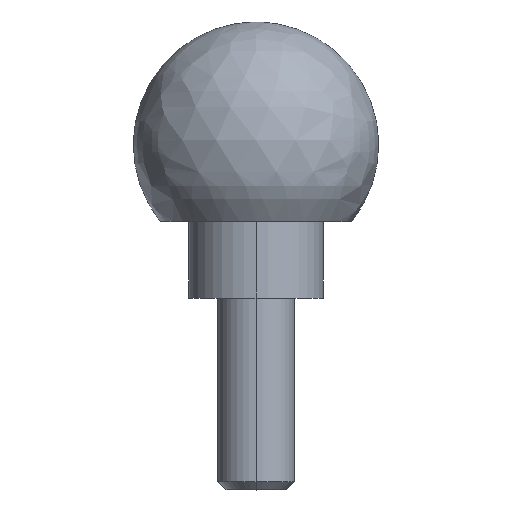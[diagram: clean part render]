
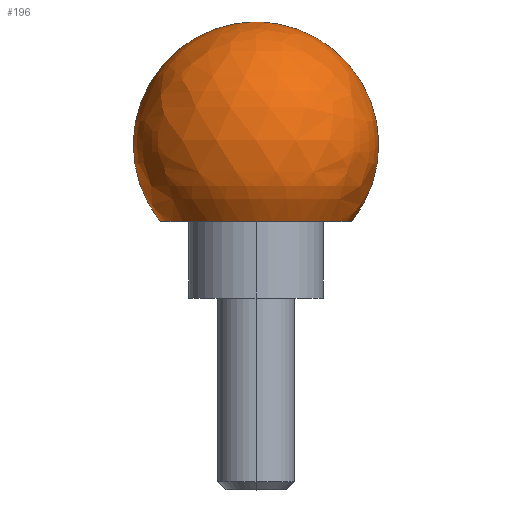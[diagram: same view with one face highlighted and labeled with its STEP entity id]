
A CAD part, top view. The second image highlights one B-rep face of the part: STEP entity #196.
In plain terms, the highlighted free-form (B-spline) face has degree [3, 3] with [4, 4] control points.
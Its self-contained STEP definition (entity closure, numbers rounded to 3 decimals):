
#33 = VERTEX_POINT ( 'NONE', #539 ) ;
#43 = CARTESIAN_POINT ( 'NONE',  ( -4.996, -4., 0. ) ) ;
#54 = AXIS2_PLACEMENT_3D ( 'NONE', #570, #149, #157 ) ;
#55 = CARTESIAN_POINT ( 'NONE',  ( 0., -4., 0. ) ) ;
#56 = ORIENTED_EDGE ( 'NONE', *, *, #435, .F. ) ;
#84 = CARTESIAN_POINT ( 'NONE',  ( 8.86, 0.827, 0. ) ) ;
#90 = EDGE_LOOP ( 'NONE', ( #307, #571, #56 ) ) ;
#111 = CIRCLE ( 'NONE', #54, 6.4 ) ;
#114 = VERTEX_POINT ( 'NONE', #167 ) ;
#123 = DIRECTION ( 'NONE',  ( 0., 0., 1. ) ) ;
#126 = CARTESIAN_POINT ( 'NONE',  ( 8.86, 0.827, 17.721 ) ) ;
#149 = DIRECTION ( 'NONE',  ( 0., 0., -1. ) ) ;
#157 = DIRECTION ( 'NONE',  ( 0., -1., 0. ) ) ;
#161 = VERTEX_POINT ( 'NONE', #308 ) ;
#166 = EDGE_CURVE ( 'NONE', #161, #33, #464, .T. ) ;
#167 = CARTESIAN_POINT ( 'NONE',  ( -4.996, -4., 0. ) ) ;
#170 = CARTESIAN_POINT ( 'NONE',  ( 0., 6.4, 0. ) ) ;
#196 = ADVANCED_FACE ( 'NONE', ( #206 ), #381, .T. ) ;
#206 = FACE_OUTER_BOUND ( 'NONE', #90, .T. ) ;
#219 = CARTESIAN_POINT ( 'NONE',  ( -8.86, 0.827, 17.721 ) ) ;
#222 = CARTESIAN_POINT ( 'NONE',  ( 4.996, -4., 0. ) ) ;
#227 = CARTESIAN_POINT ( 'NONE',  ( -6.183, 6.4, 0. ) ) ;
#228 = CARTESIAN_POINT ( 'NONE',  ( -6.183, 6.4, 12.366 ) ) ;
#236 = AXIS2_PLACEMENT_3D ( 'NONE', #55, #370, #412 ) ;
#264 = CARTESIAN_POINT ( 'NONE',  ( 0., 6.4, 0. ) ) ;
#276 = CARTESIAN_POINT ( 'NONE',  ( 4.996, -4., 9.992 ) ) ;
#307 = ORIENTED_EDGE ( 'NONE', *, *, #320, .T. ) ;
#308 = CARTESIAN_POINT ( 'NONE',  ( 4.996, -4., 0. ) ) ;
#319 = CARTESIAN_POINT ( 'NONE',  ( -4.996, -4., 9.992 ) ) ;
#320 = EDGE_CURVE ( 'NONE', #114, #161, #411, .T. ) ;
#363 = CARTESIAN_POINT ( 'NONE',  ( -8.86, 0.827, 0. ) ) ;
#370 = DIRECTION ( 'NONE',  ( 0., 1., 0. ) ) ;
#381 =( BOUNDED_SURFACE ( )  B_SPLINE_SURFACE ( 3, 3, ( 
 ( #222, #276, #319, #43 ),
 ( #84, #126, #219, #363 ),
 ( #458, #454, #228, #227 ),
 ( #548, #450, #264, #170 ) ),
 .UNSPECIFIED., .F., .F., .F. ) 
 B_SPLINE_SURFACE_WITH_KNOTS ( ( 4, 4 ),
 ( 4, 4 ),
 ( 0., 1. ),
 ( 0., 1. ),
 .UNSPECIFIED. ) 
 GEOMETRIC_REPRESENTATION_ITEM ( )  RATIONAL_B_SPLINE_SURFACE ( (
 ( 1., 0.333, 0.333, 1.),
 ( 0.622, 0.207, 0.207, 0.622),
 ( 0.622, 0.207, 0.207, 0.622),
 ( 1., 0.333, 0.333, 1.) ) ) 
 REPRESENTATION_ITEM ( '' )  SURFACE ( )  );
#411 = CIRCLE ( 'NONE', #236, 4.996 ) ;
#412 = DIRECTION ( 'NONE',  ( 0., 0., -1. ) ) ;
#435 = EDGE_CURVE ( 'NONE', #114, #33, #111, .T. ) ;
#450 = CARTESIAN_POINT ( 'NONE',  ( 0., 6.4, 0. ) ) ;
#454 = CARTESIAN_POINT ( 'NONE',  ( 6.183, 6.4, 12.366 ) ) ;
#458 = CARTESIAN_POINT ( 'NONE',  ( 6.183, 6.4, 0. ) ) ;
#464 = CIRCLE ( 'NONE', #594, 6.4 ) ;
#539 = CARTESIAN_POINT ( 'NONE',  ( 0., 6.4, 0. ) ) ;
#542 = DIRECTION ( 'NONE',  ( 0., -1., 0. ) ) ;
#548 = CARTESIAN_POINT ( 'NONE',  ( 0., 6.4, 0. ) ) ;
#570 = CARTESIAN_POINT ( 'NONE',  ( 0., 0., 0. ) ) ;
#571 = ORIENTED_EDGE ( 'NONE', *, *, #166, .T. ) ;
#590 = CARTESIAN_POINT ( 'NONE',  ( 0., 0., 0. ) ) ;
#594 = AXIS2_PLACEMENT_3D ( 'NONE', #590, #123, #542 ) ;
